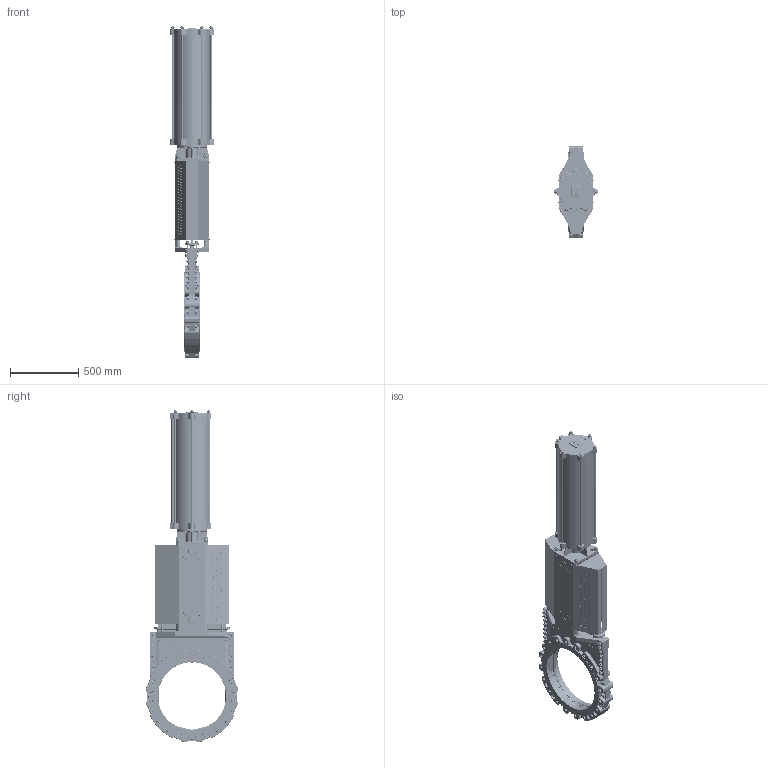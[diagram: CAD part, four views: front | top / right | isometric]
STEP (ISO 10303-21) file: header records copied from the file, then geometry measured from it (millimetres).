
FILE_DESCRIPTION(/* description */ (''),/* implementation_level */ '2;1');
FILE_NAME(/* name */ 'G:\KONSTRUK\3-D Block för kund\WB SERIE\WB14-E\PNEUMATIC ACTUATOR\SC-Cylinder\500\WB14E-WEE-DN500-PN10-SC250-630.stp',/* time_stamp */ '2020-10-23T08:52:28+02:00',/* author */ ('emimus'),/* organization */ (''),/* preprocessor_version */ 'ST-DEVELOPER v17.2',/* originating_system */ 'Autodesk Inventor 2019',/* authorisation */ '');
FILE_SCHEMA (('CONFIG_CONTROL_DESIGN'));
Products named in the file (1): WB14E-WEE-DN500-PN10- SC250-630-sat7
Bounding box: 322 x 674.1 x 2439.55 mm (x, y, z)
Volume: 47117840.6 mm3; surface area: 8150054.1 mm2
Topology: 1 solids, 1 shells, 5947 faces, 15363 edges, 9906 vertices
Faces by surface type: plane 2641, cylinder 1587, bspline 638, cone 503, torus 406, sphere 172
Full cylindrical faces by diameter (mm): 3.6 x16, 4 x2, 4.2 x8, 4.3 x2, 4.5 x4, 4.917 x13, 5 x2, 6.647 x4, 7 x5, 7.5 x4, 8.376 x4, 9.5 x2, 10.106 x10, 11 x4, 12 x6, 12.5 x6, 13 x6, 14 x7, 15 x1, 16 x41, 17 x10, 17.294 x4, 17.5 x6, 18 x1, 18.2 x4, 18.5 x2, 18.631 x2, 20 x12, 20.752 x40, 21 x8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
Entity records: 197463 total; most frequent: CARTESIAN_POINT 54743, ORIENTED_EDGE 30626, DIRECTION 28823, EDGE_CURVE 15313, AXIS2_PLACEMENT_3D 10871, VERTEX_POINT 9906, LINE 7081, VECTOR 7081
